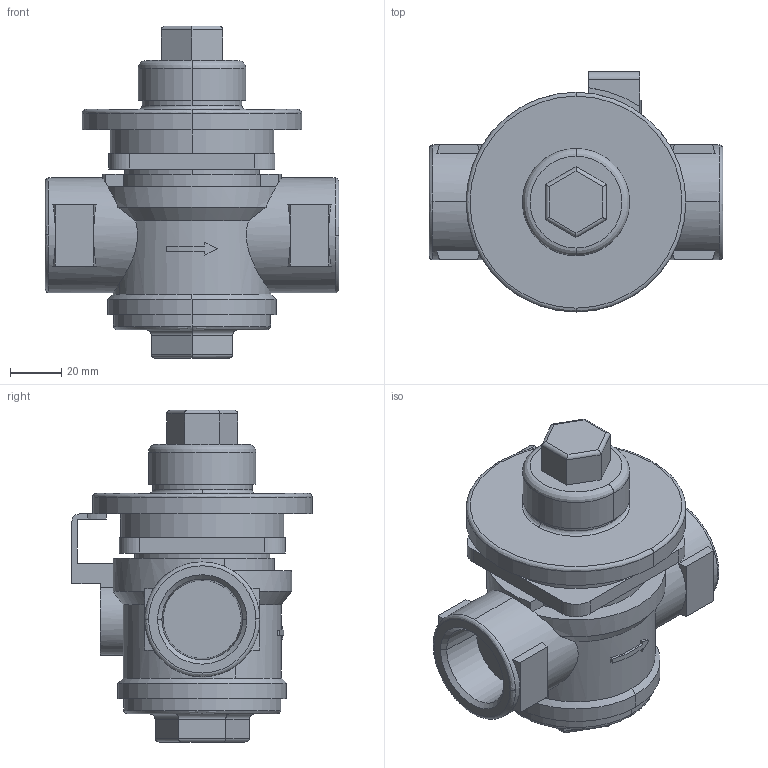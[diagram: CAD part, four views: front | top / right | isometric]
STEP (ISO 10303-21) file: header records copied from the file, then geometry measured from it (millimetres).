
FILE_DESCRIPTION( (''), '2;1');
FILE_NAME ('PC1027.12188.TSD-7 25A_29287.stp','2025-07-31T15:56:22',(''),(''),'spGate 20.6.3 (****-****-****-****)','','');
FILE_SCHEMA (('AUTOMOTIVE_DESIGN'));
Length unit declared in the file: millimetre
Products named in the file (2): Assembly; TSD-7 25A
Assembly tree (1 placements, depth 2):
  Assembly
    TSD-7 25A
Bounding box: 115 x 94 x 130 mm (x, y, z)
Volume: 418481.3 mm3; surface area: 53884.5 mm2
Topology: 1 solids, 1 shells, 156 faces, 382 edges, 245 vertices
Faces by surface type: plane 79, cylinder 52, bspline 25
Entity records: 8247 total; most frequent: CARTESIAN_POINT 1700, ORIENTED_EDGE 764, DIRECTION 646, COLOUR_RGB 539, PRESENTATION_STYLE_ASSIGNMENT 539, STYLED_ITEM 539, EDGE_CURVE 382, DRAUGHTING_PRE_DEFINED_CURVE_FONT 382
